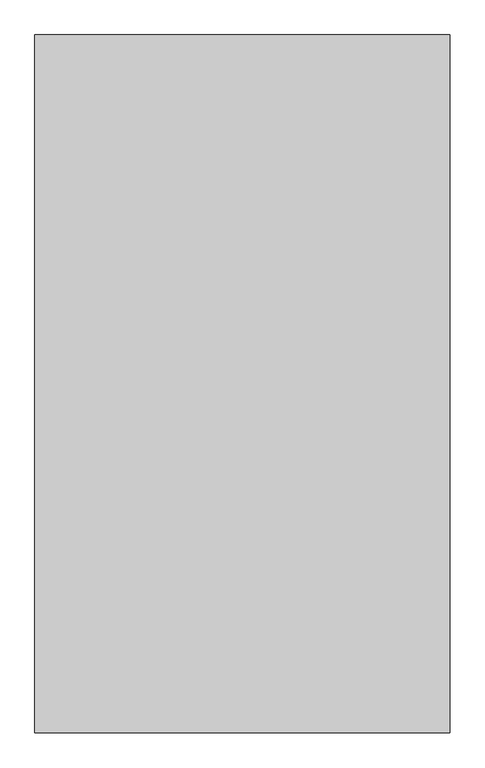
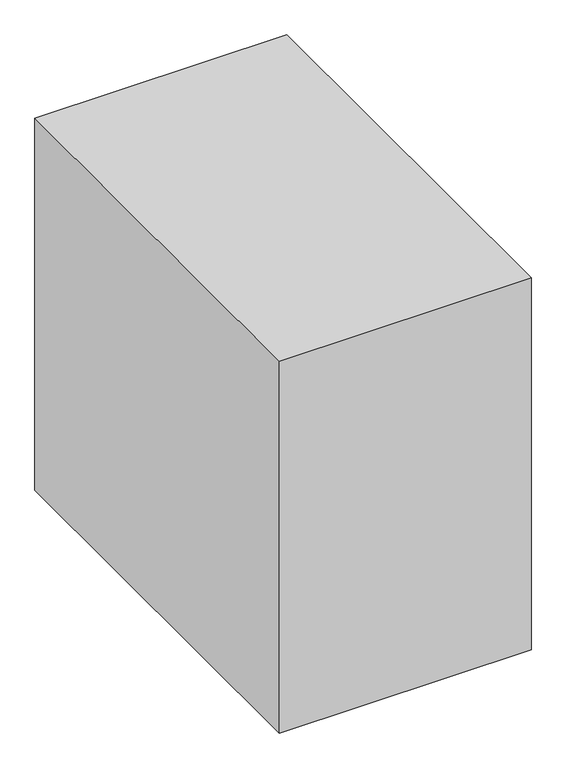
"""IFC4 building model written with IfcOpenShell, lengths in millimetres: proxy geometry."""

from ifc_helpers import new_model, si_unit, origin, origin_with_axes, place, context, project, spatial, polyline, outline, extrude, source, transform, mapped, element, save


def generic_models_4c4032d0(model_context):
    return source(origin(), model_context, "Body", "SweptSolid", [
        extrude(outline(polyline([(-89219.3218006, -19300.7903364), (-89219.3218006, -21990.7903364), (-90819.9999698, -21990.7903364), (-90819.9999698, -19300.7903364), (-89219.3218006, -19300.7903364)])), origin_with_axes(), (0.0, 0.0, 1.0), 2500.0),
    ])


if __name__ == "__main__":
    model = new_model("IFC4")
    model_context = context("Model", 3, world=origin())
    ifc_project = project(units=[si_unit("LENGTHUNIT", "METRE", prefix="MILLI")], contexts=[model_context])
    site = spatial("IfcSite", under=ifc_project)
    building = spatial("IfcBuilding", under=site)
    placement = place(None, origin())
    generic_models_shape = generic_models_4c4032d0(model_context)
    element("IfcBuildingElementProxy", 1, Name="Generic Models", at=placement, inside=building, context=model_context, shape_type="MappedRepresentation", body=[
        mapped(generic_models_shape, transform((0.0, 0.0, 0.0), x_axis=(1.0, 0.0, 0.0), y_axis=(0.0, 1.0, 0.0), z_axis=(0.0, 0.0, 1.0))),
    ])
    save(model, "model.ifc")
